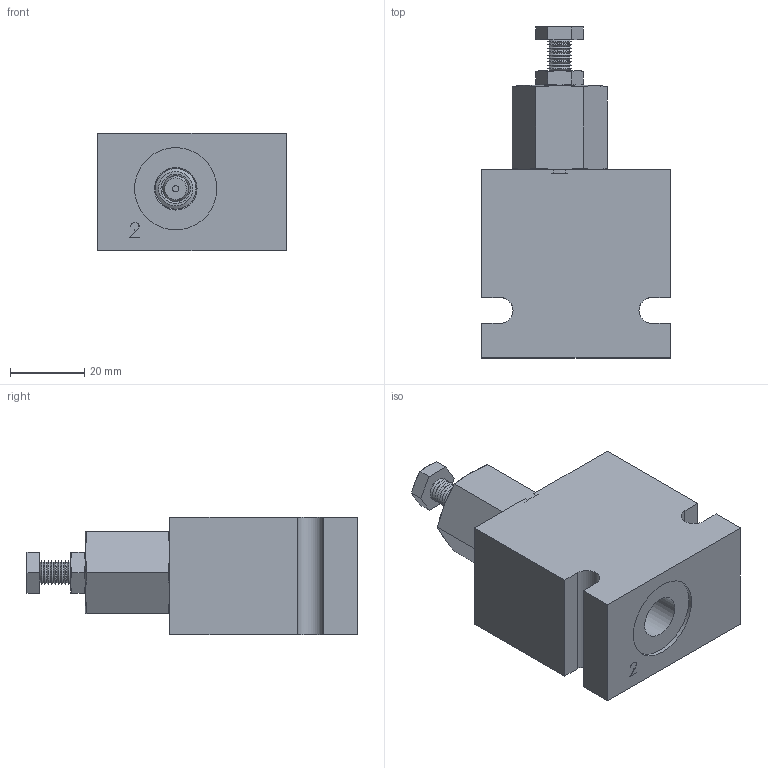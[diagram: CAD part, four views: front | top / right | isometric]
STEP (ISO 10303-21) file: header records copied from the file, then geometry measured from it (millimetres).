
FILE_DESCRIPTION( ( 'Unknown' ), '1' );
FILE_NAME( 'G:/Graphic Design/Graphic Design 2/Data Sheets/FLOW CONTROLS/2_STEP/Pressure Compensated Flow Regulator Valves/D-PBFCA00-A2.stp', 'Unknown', ( 'Unknown' ), ( 'Unknown' ), 'PSStep 16.0.42', 'Unknown', ' ' );
FILE_SCHEMA( ( 'AUTOMOTIVE_DESIGN { 1 0 10303 214 1 1 1 1 }' ) );
Length unit declared in the file: millimetre
Products named in the file (9): PBFCA00; PBFCA00-3D Full1; PBFCA00-3D Full2; PBFCA00-3D Full3; PBFCA00-3D Full4; PBFCA00-3D Full5; Assem1; B-DPBA2
Assembly tree (8 placements, depth 3):
  Assem1
    B-DPBA2
    PBFCA00
      PBFCA00-3D Full1
      PBFCA00-3D Full1
      PBFCA00-3D Full2
      PBFCA00-3D Full3
      PBFCA00-3D Full4
      PBFCA00-3D Full5
Bounding box: 50.8 x 89.59 x 31.75 mm (x, y, z)
Surface area: 21189.1 mm2 (no closed solid volume)
Topology: 0 solids, 198 shells, 198 faces, 804 edges, 732 vertices
Faces by surface type: plane 90, cone 69, cylinder 35, torus 4
Full cylindrical faces by diameter (mm): 0.2 x2, 1.69 x1, 2.794 x4, 7.943 x2, 9.928 x1, 10.135 x1, 10.5 x1, 11 x1, 11.151 x1, 11.5 x4, 12.62 x1, 12.624 x2, 12.7 x1, 16.739 x1, 17.33 x2, 22.22 x2, 22.225 x1
Entity records: 10086 total; most frequent: CARTESIAN_POINT 2924, DIRECTION 1074, VERTEX_POINT 718, ORIENTED_EDGE 714, EDGE_CURVE 714, AXIS2_PLACEMENT_3D 440, FACE_BOUND 292, EDGE_LOOP 288
